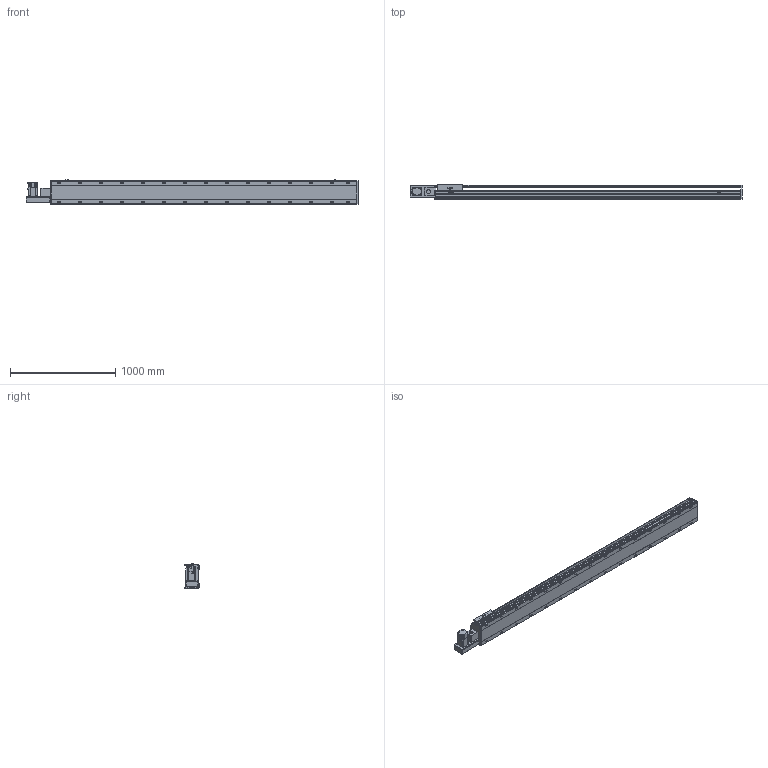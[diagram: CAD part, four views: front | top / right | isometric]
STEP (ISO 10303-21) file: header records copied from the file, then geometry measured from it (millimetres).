
FILE_DESCRIPTION(/* description */ ('STEP AP214'),/* implementation_level */ '2;1');
FILE_NAME(/* name */ 'PBS220-P40-S2550-L-T75-C1-N(0)',/* time_stamp */ '2022-06-11T09:57:46+02:00',/* author */ ('License CC BY-ND 4.0'),/* organization */ ('CADENAS'),/* preprocessor_version */ 'ST-DEVELOPER v18.102',/* originating_system */ 'PARTsolutions',/* authorisation */ ' ');
FILE_SCHEMA (('AUTOMOTIVE_DESIGN {1 0 10303 214 3 1 1}'));
Length unit declared in the file: millimetre
Products named in the file (7): PBS220-P40-S2550-L-T75-C1-N(0); PBS220_sensor; PBS220_plant; PBS220_sliser; T75-p1; PBS220T-L_motors; PBS220-S2550()_body
Assembly tree (8 placements, depth 2):
  PBS220-P40-S2550-L-T75-C1-N(0)
    PBS220_sensor  x3
    PBS220_plant
    PBS220_sliser
    T75-p1
    PBS220T-L_motors
    PBS220-S2550()_body
Bounding box: 3156 x 134 x 238.5 mm (x, y, z)
Volume: 42332648.5 mm3; surface area: 3876456.3 mm2
Topology: 8 solids, 8 shells, 998 faces, 2592 edges, 1684 vertices
Faces by surface type: plane 626, cylinder 318, cone 54
Full cylindrical faces by diameter (mm): 2.013 x4, 4.5 x14, 4.917 x4, 6 x7, 6.647 x8, 8 x10, 8.376 x30, 8.5 x30, 10 x6, 14 x30, 38 x2, 40 x1, 70 x1
Entity records: 27813 total; most frequent: CARTESIAN_POINT 4954, DIRECTION 4833, ORIENTED_EDGE 4358, EDGE_CURVE 2179, AXIS2_PLACEMENT_3D 1737, VERTEX_POINT 1528, LINE 1359, VECTOR 1359
